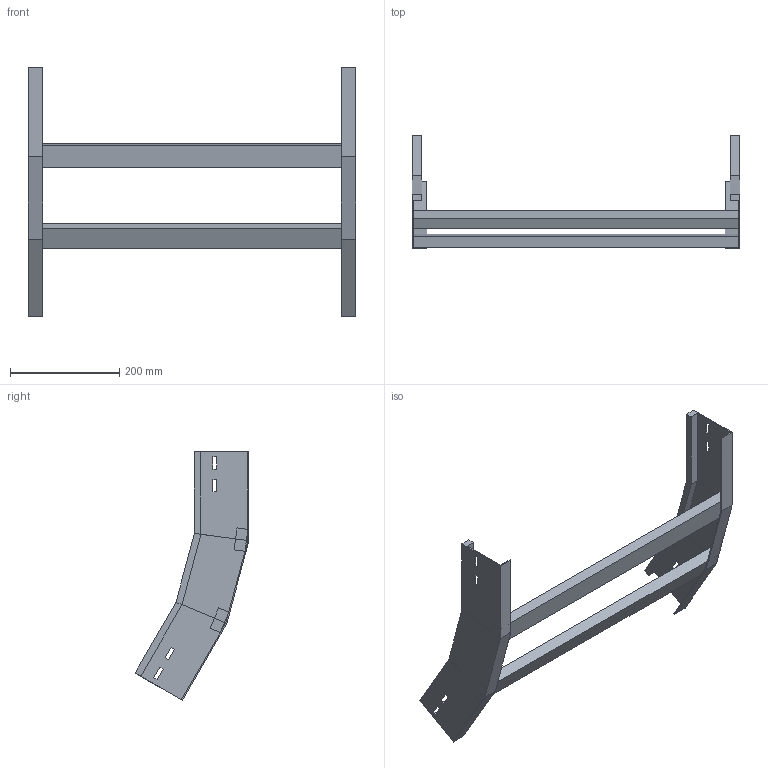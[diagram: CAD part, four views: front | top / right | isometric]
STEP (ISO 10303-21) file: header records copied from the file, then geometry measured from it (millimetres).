
FILE_DESCRIPTION (( 'STEP AP214' ), '1' );
FILE_NAME ('B2X32B5D600XX.step', '2025-03-20T09:58:50', ( '' ), ( '' ), 'SwSTEP 2.0', 'SolidWorks 2023', '' );
FILE_SCHEMA (( 'AUTOMOTIVE_DESIGN' ));
Length unit declared in the file: millimetre
Products named in the file (3): LONGH.SALITA_30°_H100_R500; B2X32B5D600XX; TRAVERSINO_600
Assembly tree (4 placements, depth 2):
  B2X32B5D600XX
    LONGH.SALITA_30°_H100_R500  x2
    TRAVERSINO_600  x2
Bounding box: 600 x 208.63 x 455.43 mm (x, y, z)
Volume: 1360081 mm3; surface area: 409787.6 mm2
Topology: 4 solids, 4 shells, 96 faces, 232 edges, 144 vertices
Faces by surface type: plane 96
Entity records: 1472 total; most frequent: CARTESIAN_POINT 243, ORIENTED_EDGE 232, DIRECTION 226, LINE 116, EDGE_CURVE 116, VECTOR 116, VERTEX_POINT 72, EDGE_LOOP 56
